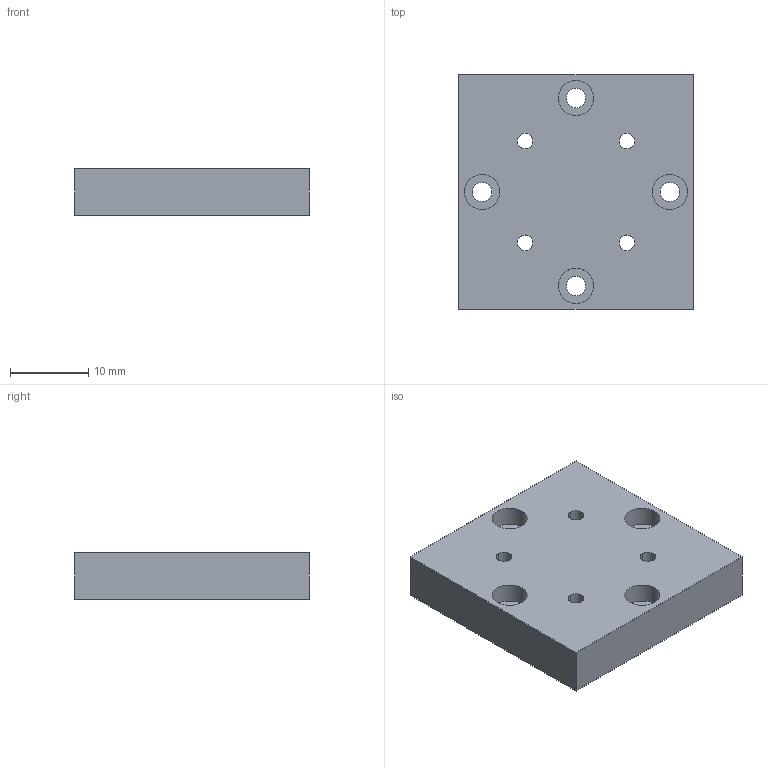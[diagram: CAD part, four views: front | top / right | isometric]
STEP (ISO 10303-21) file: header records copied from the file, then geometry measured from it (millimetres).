
FILE_DESCRIPTION( (''), '2;1');
FILE_NAME ('SPT-03.stp','2020-07-22T08:46:49',(''),(''),'spGate 15.6.6','','');
FILE_SCHEMA (('AUTOMOTIVE_DESIGN'));
Length unit declared in the file: millimetre
Products named in the file (2): Assembly; SPT-03-prt0
Assembly tree (1 placements, depth 2):
  Assembly
    SPT-03-prt0
Bounding box: 30 x 30 x 6 mm (x, y, z)
Volume: 5096.8 mm3; surface area: 2857.7 mm2
Topology: 1 solids, 1 shells, 34 faces, 84 edges, 56 vertices
Faces by surface type: cylinder 24, plane 10
Entity records: 1760 total; most frequent: CARTESIAN_POINT 202, DIRECTION 184, ORIENTED_EDGE 168, COLOUR_RGB 119, PRESENTATION_STYLE_ASSIGNMENT 119, STYLED_ITEM 119, AXIS2_PLACEMENT_3D 86, EDGE_CURVE 84
